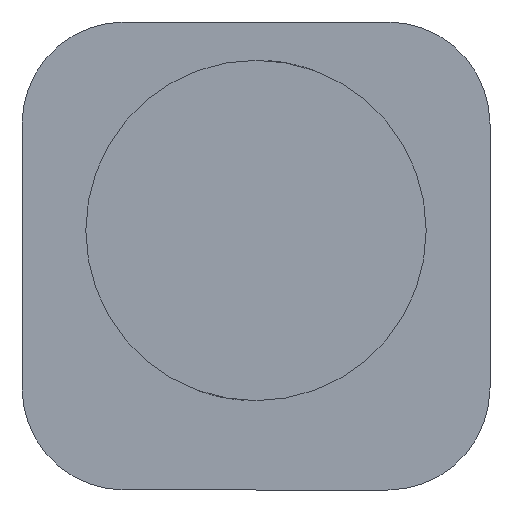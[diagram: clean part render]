
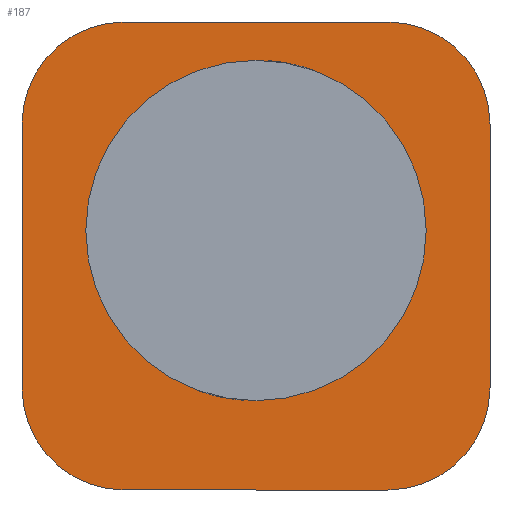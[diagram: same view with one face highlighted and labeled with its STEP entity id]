
A CAD part, front view. The second image highlights one B-rep face of the part: STEP entity #187.
In plain terms, the highlighted planar face has unit normal (0, -1, 0).
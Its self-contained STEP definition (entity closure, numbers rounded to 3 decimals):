
#1 = CARTESIAN_POINT ( 'NONE',  ( -27.5, 70., -18.5 ) ) ;
#19 = CARTESIAN_POINT ( 'NONE',  ( 27.5, 70., 24.5 ) ) ;
#26 = ORIENTED_EDGE ( 'NONE', *, *, #410, .F. ) ;
#33 = CARTESIAN_POINT ( 'NONE',  ( -15.5, 70., 12.5 ) ) ;
#43 = VERTEX_POINT ( 'NONE', #560 ) ;
#46 = CARTESIAN_POINT ( 'NONE',  ( 0., 70., -20. ) ) ;
#51 = VERTEX_POINT ( 'NONE', #1 ) ;
#54 = DIRECTION ( 'NONE',  ( 0., -1., 0. ) ) ;
#57 = ORIENTED_EDGE ( 'NONE', *, *, #495, .T. ) ;
#61 = CIRCLE ( 'NONE', #283, 12. ) ;
#65 = DIRECTION ( 'NONE',  ( 0., 1., 0. ) ) ;
#73 = DIRECTION ( 'NONE',  ( 0., -1., 0. ) ) ;
#79 = CIRCLE ( 'NONE', #573, 20. ) ;
#85 = CARTESIAN_POINT ( 'NONE',  ( 0., 70., 0. ) ) ;
#89 = CARTESIAN_POINT ( 'NONE',  ( 0., 70., 0. ) ) ;
#92 = DIRECTION ( 'NONE',  ( 0., -1., 0. ) ) ;
#94 = DIRECTION ( 'NONE',  ( 0., 0., 1. ) ) ;
#103 = DIRECTION ( 'NONE',  ( 0., 0., -1. ) ) ;
#112 = DIRECTION ( 'NONE',  ( 0., 0., 1. ) ) ;
#118 = AXIS2_PLACEMENT_3D ( 'NONE', #85, #198, #333 ) ;
#121 = CARTESIAN_POINT ( 'NONE',  ( 15.5, 70., -30.5 ) ) ;
#122 = CARTESIAN_POINT ( 'NONE',  ( 0., 70., 0. ) ) ;
#124 = CIRCLE ( 'NONE', #339, 20. ) ;
#127 = LINE ( 'NONE', #571, #514 ) ;
#132 = LINE ( 'NONE', #19, #521 ) ;
#134 = CIRCLE ( 'NONE', #298, 12. ) ;
#142 = PLANE ( 'NONE',  #118 ) ;
#147 = EDGE_CURVE ( 'NONE', #428, #520, #61, .T. ) ;
#151 = VERTEX_POINT ( 'NONE', #464 ) ;
#152 = ORIENTED_EDGE ( 'NONE', *, *, #147, .T. ) ;
#187 = ADVANCED_FACE ( 'NONE', ( #465, #479 ), #142, .F. ) ;
#191 = CARTESIAN_POINT ( 'NONE',  ( 27.5, 70., -18.5 ) ) ;
#194 = AXIS2_PLACEMENT_3D ( 'NONE', #387, #234, #332 ) ;
#197 = CARTESIAN_POINT ( 'NONE',  ( -15.5, 70., 24.5 ) ) ;
#198 = DIRECTION ( 'NONE',  ( 0., 1., 0. ) ) ;
#202 = DIRECTION ( 'NONE',  ( 0., 0., 1. ) ) ;
#226 = ORIENTED_EDGE ( 'NONE', *, *, #551, .F. ) ;
#227 = EDGE_LOOP ( 'NONE', ( #542, #368, #226, #152, #359, #561, #26, #57 ) ) ;
#234 = DIRECTION ( 'NONE',  ( 0., -1., 0. ) ) ;
#240 = VERTEX_POINT ( 'NONE', #423 ) ;
#266 = ORIENTED_EDGE ( 'NONE', *, *, #270, .T. ) ;
#267 = ORIENTED_EDGE ( 'NONE', *, *, #579, .T. ) ;
#270 = EDGE_CURVE ( 'NONE', #43, #319, #79, .T. ) ;
#283 = AXIS2_PLACEMENT_3D ( 'NONE', #322, #92, #202 ) ;
#294 = DIRECTION ( 'NONE',  ( 0., 1., 0. ) ) ;
#298 = AXIS2_PLACEMENT_3D ( 'NONE', #523, #54, #112 ) ;
#306 = CIRCLE ( 'NONE', #194, 12. ) ;
#307 = VECTOR ( 'NONE', #94, 1000. ) ;
#314 = LINE ( 'NONE', #348, #328 ) ;
#319 = VERTEX_POINT ( 'NONE', #46 ) ;
#322 = CARTESIAN_POINT ( 'NONE',  ( 15.5, 70., -18.5 ) ) ;
#328 = VECTOR ( 'NONE', #103, 1000. ) ;
#332 = DIRECTION ( 'NONE',  ( 0., 0., 1. ) ) ;
#333 = DIRECTION ( 'NONE',  ( 0., 0., 1. ) ) ;
#339 = AXIS2_PLACEMENT_3D ( 'NONE', #122, #65, #494 ) ;
#348 = CARTESIAN_POINT ( 'NONE',  ( 27.5, 70., 24.5 ) ) ;
#359 = ORIENTED_EDGE ( 'NONE', *, *, #485, .F. ) ;
#368 = ORIENTED_EDGE ( 'NONE', *, *, #458, .T. ) ;
#381 = DIRECTION ( 'NONE',  ( 0., 0., 1. ) ) ;
#387 = CARTESIAN_POINT ( 'NONE',  ( 15.5, 70., 12.5 ) ) ;
#390 = EDGE_CURVE ( 'NONE', #51, #565, #516, .T. ) ;
#410 = EDGE_CURVE ( 'NONE', #558, #454, #132, .T. ) ;
#423 = CARTESIAN_POINT ( 'NONE',  ( -15.5, 70., -30.5 ) ) ;
#428 = VERTEX_POINT ( 'NONE', #121 ) ;
#440 = EDGE_CURVE ( 'NONE', #151, #454, #306, .T. ) ;
#446 = DIRECTION ( 'NONE',  ( 0., 0., 1. ) ) ;
#454 = VERTEX_POINT ( 'NONE', #528 ) ;
#455 = DIRECTION ( 'NONE',  ( -1., 0., 0. ) ) ;
#458 = EDGE_CURVE ( 'NONE', #51, #240, #134, .T. ) ;
#464 = CARTESIAN_POINT ( 'NONE',  ( 27.5, 70., 12.5 ) ) ;
#465 = FACE_BOUND ( 'NONE', #541, .T. ) ;
#474 = CARTESIAN_POINT ( 'NONE',  ( -27.5, 70., 24.5 ) ) ;
#475 = AXIS2_PLACEMENT_3D ( 'NONE', #33, #73, #446 ) ;
#477 = CARTESIAN_POINT ( 'NONE',  ( -27.5, 70., 12.5 ) ) ;
#479 = FACE_OUTER_BOUND ( 'NONE', #227, .T. ) ;
#485 = EDGE_CURVE ( 'NONE', #151, #520, #314, .T. ) ;
#494 = DIRECTION ( 'NONE',  ( 0., 0., 1. ) ) ;
#495 = EDGE_CURVE ( 'NONE', #558, #565, #530, .T. ) ;
#514 = VECTOR ( 'NONE', #455, 1000. ) ;
#516 = LINE ( 'NONE', #474, #307 ) ;
#520 = VERTEX_POINT ( 'NONE', #191 ) ;
#521 = VECTOR ( 'NONE', #584, 1000. ) ;
#523 = CARTESIAN_POINT ( 'NONE',  ( -15.5, 70., -18.5 ) ) ;
#528 = CARTESIAN_POINT ( 'NONE',  ( 15.5, 70., 24.5 ) ) ;
#530 = CIRCLE ( 'NONE', #475, 12. ) ;
#541 = EDGE_LOOP ( 'NONE', ( #267, #266 ) ) ;
#542 = ORIENTED_EDGE ( 'NONE', *, *, #390, .F. ) ;
#551 = EDGE_CURVE ( 'NONE', #428, #240, #127, .T. ) ;
#558 = VERTEX_POINT ( 'NONE', #197 ) ;
#560 = CARTESIAN_POINT ( 'NONE',  ( 0., 70., 20. ) ) ;
#561 = ORIENTED_EDGE ( 'NONE', *, *, #440, .T. ) ;
#565 = VERTEX_POINT ( 'NONE', #477 ) ;
#571 = CARTESIAN_POINT ( 'NONE',  ( 27.5, 70., -30.5 ) ) ;
#573 = AXIS2_PLACEMENT_3D ( 'NONE', #89, #294, #381 ) ;
#579 = EDGE_CURVE ( 'NONE', #319, #43, #124, .T. ) ;
#584 = DIRECTION ( 'NONE',  ( 1., 0., 0. ) ) ;
